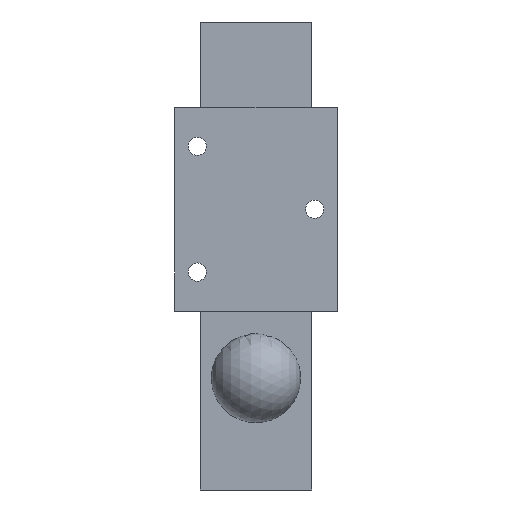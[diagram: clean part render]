
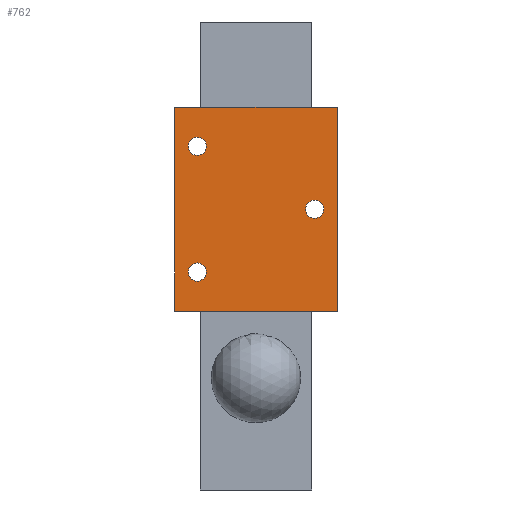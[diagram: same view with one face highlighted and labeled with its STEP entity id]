
A CAD part, front view. The second image highlights one B-rep face of the part: STEP entity #762.
In plain terms, the highlighted planar face has unit normal (0, -1, 0).
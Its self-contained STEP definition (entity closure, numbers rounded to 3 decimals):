
#78=FACE_BOUND('',#240,.T.);
#79=FACE_BOUND('',#241,.T.);
#80=FACE_BOUND('',#242,.T.);
#81=FACE_BOUND('',#243,.T.);
#93=CIRCLE('',#802,3.25);
#95=CIRCLE('',#805,3.25);
#97=CIRCLE('',#808,3.25);
#240=EDGE_LOOP('',(#665));
#241=EDGE_LOOP('',(#666));
#242=EDGE_LOOP('',(#667));
#243=EDGE_LOOP('',(#668,#669,#670,#671));
#288=LINE('',#1259,#342);
#292=LINE('',#1267,#346);
#298=LINE('',#1278,#352);
#299=LINE('',#1280,#353);
#342=VECTOR('',#1053,58.);
#346=VECTOR('',#1059,73.);
#352=VECTOR('',#1069,73.);
#353=VECTOR('',#1072,58.);
#391=VERTEX_POINT('',#1190);
#393=VERTEX_POINT('',#1195);
#395=VERTEX_POINT('',#1200);
#414=VERTEX_POINT('',#1257);
#415=VERTEX_POINT('',#1258);
#418=VERTEX_POINT('',#1266);
#421=VERTEX_POINT('',#1276);
#473=EDGE_CURVE('',#391,#391,#93,.T.);
#475=EDGE_CURVE('',#393,#393,#95,.T.);
#477=EDGE_CURVE('',#395,#395,#97,.T.);
#496=EDGE_CURVE('',#414,#415,#288,.T.);
#500=EDGE_CURVE('',#418,#415,#292,.T.);
#506=EDGE_CURVE('',#414,#421,#298,.T.);
#507=EDGE_CURVE('',#418,#421,#299,.T.);
#665=ORIENTED_EDGE('',*,*,#473,.T.);
#666=ORIENTED_EDGE('',*,*,#475,.T.);
#667=ORIENTED_EDGE('',*,*,#477,.T.);
#668=ORIENTED_EDGE('',*,*,#506,.T.);
#669=ORIENTED_EDGE('',*,*,#507,.F.);
#670=ORIENTED_EDGE('',*,*,#500,.T.);
#671=ORIENTED_EDGE('',*,*,#496,.F.);
#710=PLANE('',#849);
#762=ADVANCED_FACE('',(#78,#79,#80,#81),#710,.T.);
#802=AXIS2_PLACEMENT_3D('',#1191,#965,#966);
#805=AXIS2_PLACEMENT_3D('',#1196,#971,#972);
#808=AXIS2_PLACEMENT_3D('',#1201,#977,#978);
#849=AXIS2_PLACEMENT_3D('',#1279,#1070,#1071);
#965=DIRECTION('center_axis',(0.,1.,0.));
#966=DIRECTION('ref_axis',(1.,0.,0.));
#971=DIRECTION('center_axis',(0.,1.,0.));
#972=DIRECTION('ref_axis',(1.,0.,0.));
#977=DIRECTION('center_axis',(0.,1.,0.));
#978=DIRECTION('ref_axis',(1.,0.,0.));
#1053=DIRECTION('',(-1.,0.,0.));
#1059=DIRECTION('',(0.,0.,-1.));
#1069=DIRECTION('',(0.,0.,1.));
#1070=DIRECTION('center_axis',(0.,-1.,0.));
#1071=DIRECTION('ref_axis',(1.,0.,0.));
#1072=DIRECTION('',(1.,0.,0.));
#1190=CARTESIAN_POINT('',(-17.75,-25.,22.5));
#1191=CARTESIAN_POINT('Origin',(-21.,-25.,22.5));
#1195=CARTESIAN_POINT('',(24.25,-25.,0.));
#1196=CARTESIAN_POINT('Origin',(21.,-25.,0.));
#1200=CARTESIAN_POINT('',(-17.75,-25.,-22.5));
#1201=CARTESIAN_POINT('Origin',(-21.,-25.,-22.5));
#1257=CARTESIAN_POINT('',(29.,-25.,-36.5));
#1258=CARTESIAN_POINT('',(-29.,-25.,-36.5));
#1259=CARTESIAN_POINT('',(-29.,-25.,-36.5));
#1266=CARTESIAN_POINT('',(-29.,-25.,36.5));
#1267=CARTESIAN_POINT('',(-29.,-25.,0.));
#1276=CARTESIAN_POINT('',(29.,-25.,36.5));
#1278=CARTESIAN_POINT('',(29.,-25.,0.));
#1279=CARTESIAN_POINT('Origin',(-29.,-25.,0.));
#1280=CARTESIAN_POINT('',(-29.,-25.,36.5));
